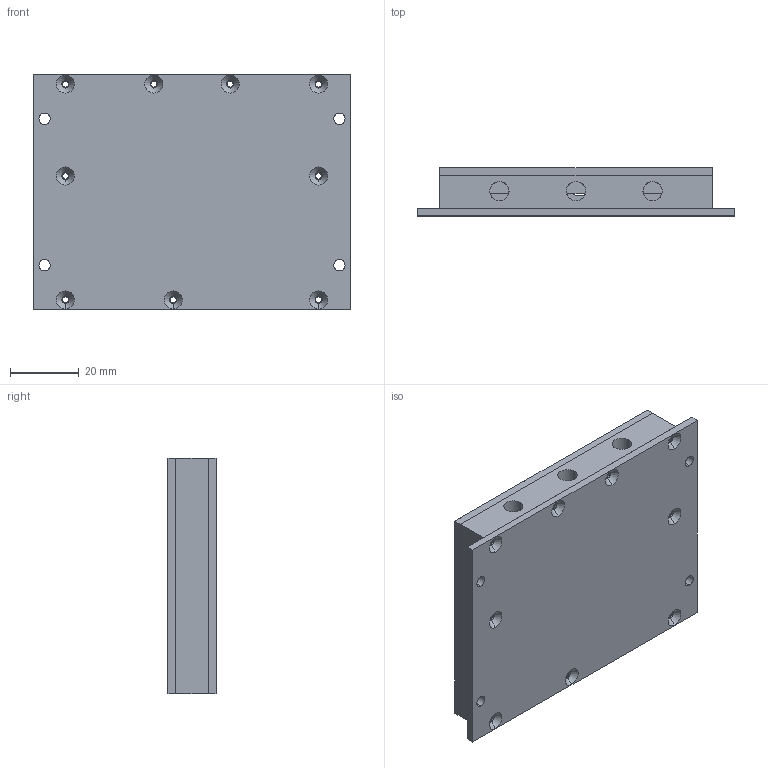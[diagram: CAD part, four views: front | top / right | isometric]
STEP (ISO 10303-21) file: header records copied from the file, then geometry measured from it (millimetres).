
FILE_DESCRIPTION (( 'STEP AP203' ), '1' );
FILE_NAME ('5009 Assemby.STEP', '2020-04-02T19:40:41', ( '' ), ( '' ), 'SwSTEP 2.0', 'SolidWorks 2020', '' );
FILE_SCHEMA (( 'CONFIG_CONTROL_DESIGN' ));
Length unit declared in the file: inch
Products named in the file (4): 5009 Assemby; Housing, 5009 Module, REV02 9.13.15; Cover, 5009 Module, REV02; Base, 5009 Module, REV01
Assembly tree (3 placements, depth 2):
  5009 Assemby
    Housing, 5009 Module, REV02 9.13.15
    Cover, 5009 Module, REV02
    Base, 5009 Module, REV01
Bounding box: 92.08 x 13.94 x 68.2 mm (x, y, z)
Volume: 40947.1 mm3; surface area: 37027.4 mm2
Topology: 3 solids, 3 shells, 300 faces, 836 edges, 534 vertices
Faces by surface type: cylinder 154, plane 86, cone 60
Entity records: 10412 total; most frequent: DIRECTION 1816, CARTESIAN_POINT 1736, ORIENTED_EDGE 1672, EDGE_CURVE 836, AXIS2_PLACEMENT_3D 680, VERTEX_POINT 534, VECTOR 456, LINE 456
